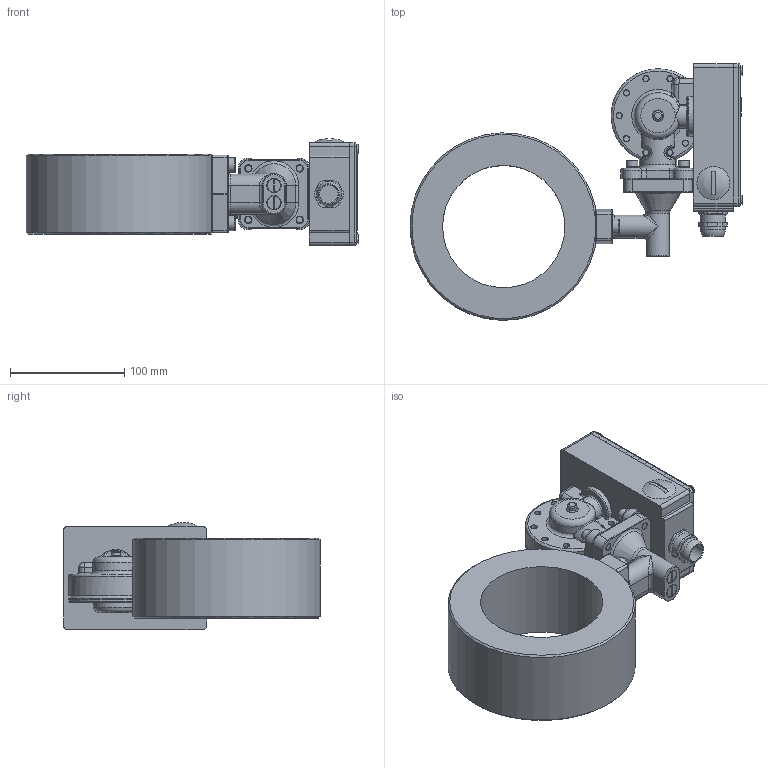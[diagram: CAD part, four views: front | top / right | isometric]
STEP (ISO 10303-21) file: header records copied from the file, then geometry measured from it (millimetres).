
FILE_DESCRIPTION(/* description */ ('Alibre Inc.'),/* implementation_level */ '2;1');
FILE_NAME(/* name */ 'export0',/* time_stamp */ '2012-10-15T13:32:32+02:00',/* author */ (''),/* organization */ (''),/* preprocessor_version */ 'ST-DEVELOPER v14',/* originating_system */ 'Alibre',/* authorisation */ '');
FILE_SCHEMA (('CONFIG_CONTROL_DESIGN'));
Length unit declared in the file: centimetre
Products named in the file (13): ID_1; ID_2; ID_3; ID_4; ID_5; ID_6; ID_7; ID_8
Bounding box: 290.5 x 224.53 x 93.66 mm (x, y, z)
Volume: 1237625.8 mm3; surface area: 254169.4 mm2
Topology: 29 solids, 29 shells, 1094 faces, 2578 edges, 1625 vertices
Faces by surface type: plane 540, cylinder 251, bspline 168, torus 65, cone 65, sphere 5
Full cylindrical faces by diameter (mm): 5 x23, 5.5 x18, 6 x12, 6.038 x2, 6.5 x4, 7.5 x1, 8 x18, 8.3 x9, 8.5 x2, 8.7 x2, 9.6 x4, 10 x4, 11.75 x2, 11.85 x1, 12 x2, 13 x2, 14 x2, 16 x1, 17.966 x1, 22 x2, 22.5 x4, 31 x1, 32 x1, 47 x1, 56 x2, 107 x1
Entity records: 34395 total; most frequent: CARTESIAN_POINT 14007, ORIENTED_EDGE 3926, DIRECTION 3183, EDGE_CURVE 1963, VERTEX_POINT 1311, AXIS2_PLACEMENT_3D 1303, EDGE_LOOP 1144, FACE_BOUND 1144
